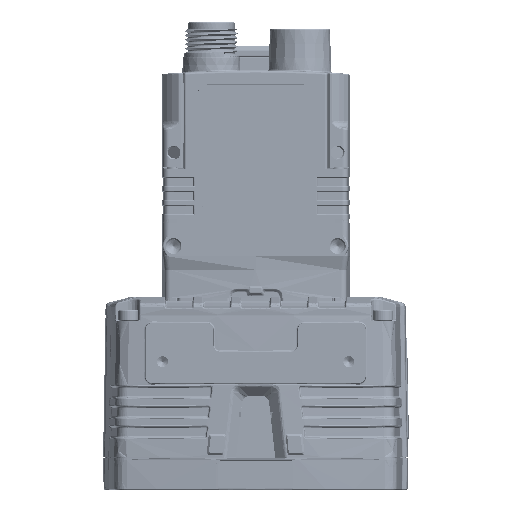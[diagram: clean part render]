
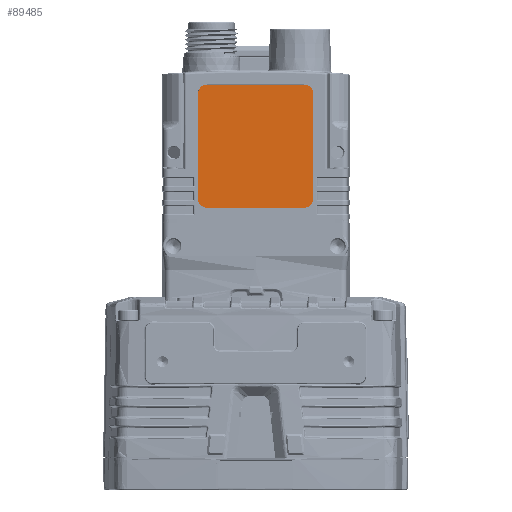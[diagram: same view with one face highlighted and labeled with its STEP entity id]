
A CAD part, front view. The second image highlights one B-rep face of the part: STEP entity #89485.
In plain terms, the highlighted planar face has unit normal (0, -1, 0).
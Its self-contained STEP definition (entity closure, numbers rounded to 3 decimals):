
#366 = DIRECTION ( 'NONE',  ( 0., 0., -1. ) ) ;
#3488 = EDGE_CURVE ( 'NONE', #82239, #118555, #170666, .T. ) ;
#4891 = LINE ( 'NONE', #127017, #168854 ) ;
#4962 = ORIENTED_EDGE ( 'NONE', *, *, #168895, .F. ) ;
#8803 = EDGE_CURVE ( 'NONE', #84482, #180116, #148165, .T. ) ;
#14166 = CARTESIAN_POINT ( 'NONE',  ( -10.929, -10.9, 19.994 ) ) ;
#18928 = DIRECTION ( 'NONE',  ( 0., 0., -1. ) ) ;
#23075 = AXIS2_PLACEMENT_3D ( 'NONE', #144154, #128474, #196822 ) ;
#30463 = DIRECTION ( 'NONE',  ( 0., 0., 1. ) ) ;
#34634 = CARTESIAN_POINT ( 'NONE',  ( -10.929, -10.9, 22.065 ) ) ;
#36126 = CARTESIAN_POINT ( 'NONE',  ( 0., -10.9, 19.994 ) ) ;
#49710 = DIRECTION ( 'NONE',  ( 0., -1., 0. ) ) ;
#52116 = VECTOR ( 'NONE', #173978, 1000. ) ;
#53408 = DIRECTION ( 'NONE',  ( 0., -1., 0. ) ) ;
#55791 = AXIS2_PLACEMENT_3D ( 'NONE', #34634, #55855, #18928 ) ;
#55808 = LINE ( 'NONE', #94956, #220640 ) ;
#55855 = DIRECTION ( 'NONE',  ( 0., 1., 0. ) ) ;
#57758 = CARTESIAN_POINT ( 'NONE',  ( 13., -10.9, 22.065 ) ) ;
#60919 = EDGE_CURVE ( 'NONE', #151692, #66777, #219984, .T. ) ;
#66777 = VERTEX_POINT ( 'NONE', #68322 ) ;
#68322 = CARTESIAN_POINT ( 'NONE',  ( -10.929, -10.9, 47.768 ) ) ;
#68884 = CIRCLE ( 'NONE', #75972, 2.071 ) ;
#70966 = PLANE ( 'NONE',  #111674 ) ;
#75972 = AXIS2_PLACEMENT_3D ( 'NONE', #115411, #53408, #138577 ) ;
#79692 = ORIENTED_EDGE ( 'NONE', *, *, #209383, .F. ) ;
#79823 = CARTESIAN_POINT ( 'NONE',  ( 13., -10.9, 0. ) ) ;
#82239 = VERTEX_POINT ( 'NONE', #14166 ) ;
#82629 = EDGE_CURVE ( 'NONE', #118555, #84482, #137934, .T. ) ;
#84028 = EDGE_CURVE ( 'NONE', #203784, #66777, #55808, .T. ) ;
#84482 = VERTEX_POINT ( 'NONE', #57758 ) ;
#87796 = CARTESIAN_POINT ( 'NONE',  ( 10.929, -10.9, 19.994 ) ) ;
#88165 = ORIENTED_EDGE ( 'NONE', *, *, #82629, .T. ) ;
#89485 = ADVANCED_FACE ( 'NONE', ( #153878 ), #70966, .T. ) ;
#90627 = VERTEX_POINT ( 'NONE', #138699 ) ;
#94956 = CARTESIAN_POINT ( 'NONE',  ( 0., -10.9, 47.768 ) ) ;
#96112 = VECTOR ( 'NONE', #30463, 1000. ) ;
#97973 = ORIENTED_EDGE ( 'NONE', *, *, #8803, .T. ) ;
#101172 = CARTESIAN_POINT ( 'NONE',  ( 13., -10.9, 45.697 ) ) ;
#102357 = DIRECTION ( 'NONE',  ( 0., -1., 0. ) ) ;
#109428 = ORIENTED_EDGE ( 'NONE', *, *, #84028, .T. ) ;
#111674 = AXIS2_PLACEMENT_3D ( 'NONE', #151676, #102357, #206586 ) ;
#115411 = CARTESIAN_POINT ( 'NONE',  ( 10.929, -10.9, 45.697 ) ) ;
#118555 = VERTEX_POINT ( 'NONE', #87796 ) ;
#127017 = CARTESIAN_POINT ( 'NONE',  ( -13., -10.9, 0. ) ) ;
#127490 = CIRCLE ( 'NONE', #55791, 2.071 ) ;
#128474 = DIRECTION ( 'NONE',  ( 0., 1., 0. ) ) ;
#132841 = ORIENTED_EDGE ( 'NONE', *, *, #217343, .T. ) ;
#137934 = CIRCLE ( 'NONE', #163182, 2.071 ) ;
#138577 = DIRECTION ( 'NONE',  ( 0., 0., -1. ) ) ;
#138699 = CARTESIAN_POINT ( 'NONE',  ( -13., -10.9, 22.065 ) ) ;
#144154 = CARTESIAN_POINT ( 'NONE',  ( -10.929, -10.9, 45.697 ) ) ;
#148165 = LINE ( 'NONE', #79823, #96112 ) ;
#151676 = CARTESIAN_POINT ( 'NONE',  ( 0., -10.9, 0. ) ) ;
#151692 = VERTEX_POINT ( 'NONE', #208923 ) ;
#153878 = FACE_OUTER_BOUND ( 'NONE', #161574, .T. ) ;
#161574 = EDGE_LOOP ( 'NONE', ( #97973, #132841, #109428, #170378, #79692, #4962, #177058, #88165 ) ) ;
#163182 = AXIS2_PLACEMENT_3D ( 'NONE', #203268, #49710, #366 ) ;
#168854 = VECTOR ( 'NONE', #177460, 1000. ) ;
#168895 = EDGE_CURVE ( 'NONE', #82239, #90627, #127490, .T. ) ;
#170378 = ORIENTED_EDGE ( 'NONE', *, *, #60919, .F. ) ;
#170666 = LINE ( 'NONE', #36126, #52116 ) ;
#173978 = DIRECTION ( 'NONE',  ( 1., 0., 0. ) ) ;
#177058 = ORIENTED_EDGE ( 'NONE', *, *, #3488, .T. ) ;
#177460 = DIRECTION ( 'NONE',  ( 0., 0., 1. ) ) ;
#180116 = VERTEX_POINT ( 'NONE', #101172 ) ;
#196822 = DIRECTION ( 'NONE',  ( 0., 0., -1. ) ) ;
#203268 = CARTESIAN_POINT ( 'NONE',  ( 10.929, -10.9, 22.065 ) ) ;
#203784 = VERTEX_POINT ( 'NONE', #203838 ) ;
#203838 = CARTESIAN_POINT ( 'NONE',  ( 10.929, -10.9, 47.768 ) ) ;
#206586 = DIRECTION ( 'NONE',  ( 0., 0., -1. ) ) ;
#208923 = CARTESIAN_POINT ( 'NONE',  ( -13., -10.9, 45.697 ) ) ;
#209383 = EDGE_CURVE ( 'NONE', #90627, #151692, #4891, .T. ) ;
#212660 = DIRECTION ( 'NONE',  ( -1., 0., 0. ) ) ;
#217343 = EDGE_CURVE ( 'NONE', #180116, #203784, #68884, .T. ) ;
#219984 = CIRCLE ( 'NONE', #23075, 2.071 ) ;
#220640 = VECTOR ( 'NONE', #212660, 1000. ) ;
